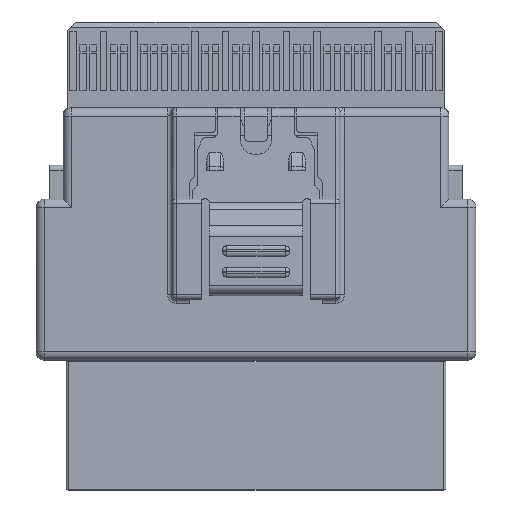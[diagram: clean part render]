
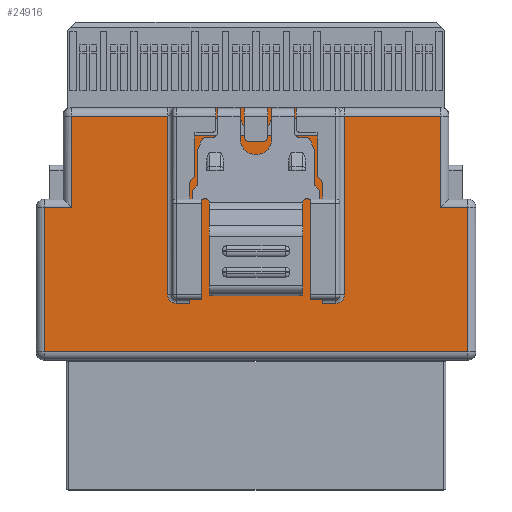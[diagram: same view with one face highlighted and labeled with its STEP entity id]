
A CAD part, top view. The second image highlights one B-rep face of the part: STEP entity #24916.
In plain terms, the highlighted planar face has unit normal (0, 0, 1) as drawn and (0, 1, 0) by its records, which use the part's own axes.
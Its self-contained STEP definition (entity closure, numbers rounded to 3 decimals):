
#20774=DIRECTION('',(0.,0.,-1.));
#20775=VECTOR('',#20774,1.6);
#20776=CARTESIAN_POINT('',(9.2,5.33,-10.875));
#20777=LINE('',#20776,#20775);
#20793=DIRECTION('',(0.,0.,1.));
#20794=VECTOR('',#20793,1.025);
#20795=CARTESIAN_POINT('',(14.35,5.33,-3.9));
#20796=LINE('',#20795,#20794);
#20797=CARTESIAN_POINT('',(14.85,5.33,-2.875));
#20798=DIRECTION('',(0.,1.,0.));
#20799=DIRECTION('',(-1.,0.,0.));
#20800=AXIS2_PLACEMENT_3D('',#20797,#20798,#20799);
#20802=DIRECTION('',(0.,0.,1.));
#20803=VECTOR('',#20802,1.675);
#20804=CARTESIAN_POINT('',(15.1,5.33,-2.375));
#20805=LINE('',#20804,#20803);
#20806=CARTESIAN_POINT('',(14.6,5.33,-0.2));
#20807=DIRECTION('',(0.,1.,0.));
#20808=DIRECTION('',(0.,0.,-1.));
#20809=AXIS2_PLACEMENT_3D('',#20806,#20807,#20808);
#20811=CARTESIAN_POINT('',(14.6,5.33,0.2));
#20812=DIRECTION('',(0.,1.,0.));
#20813=DIRECTION('',(-1.,0.,0.));
#20814=AXIS2_PLACEMENT_3D('',#20811,#20812,#20813);
#20816=DIRECTION('',(0.,0.,1.));
#20817=VECTOR('',#20816,1.675);
#20818=CARTESIAN_POINT('',(15.1,5.33,0.7));
#20819=LINE('',#20818,#20817);
#20820=CARTESIAN_POINT('',(14.85,5.33,2.875));
#20821=DIRECTION('',(0.,1.,0.));
#20822=DIRECTION('',(0.,0.,-1.));
#20823=AXIS2_PLACEMENT_3D('',#20820,#20821,#20822);
#20825=DIRECTION('',(0.,0.,1.));
#20826=VECTOR('',#20825,1.025);
#20827=CARTESIAN_POINT('',(14.35,5.33,2.875));
#20828=LINE('',#20827,#20826);
#20829=CARTESIAN_POINT('',(4.05,5.33,4.7));
#20830=DIRECTION('',(0.,1.,0.));
#20831=DIRECTION('',(-1.,0.,0.));
#20832=AXIS2_PLACEMENT_3D('',#20829,#20830,#20831);
#20834=CARTESIAN_POINT('',(4.05,5.33,-4.7));
#20835=DIRECTION('',(0.,1.,0.));
#20836=DIRECTION('',(0.,0.,-1.));
#20837=AXIS2_PLACEMENT_3D('',#20834,#20835,#20836);
#20847=DIRECTION('',(-1.,0.,0.));
#20848=VECTOR('',#20847,10.8);
#20849=CARTESIAN_POINT('',(14.35,5.33,-3.9));
#20850=LINE('',#20849,#20848);
#21083=DIRECTION('',(-1.,0.,0.));
#21084=VECTOR('',#21083,5.4);
#21085=CARTESIAN_POINT('',(14.6,5.33,-10.875));
#21086=LINE('',#21085,#21084);
#21102=DIRECTION('',(0.,0.,-1.));
#21103=VECTOR('',#21102,5.675);
#21104=CARTESIAN_POINT('',(14.6,5.33,
-5.2));
#21105=LINE('',#21104,#21103);
#21140=DIRECTION('',(1.,0.,0.));
#21141=VECTOR('',#21140,10.55);
#21142=CARTESIAN_POINT('',(4.05,5.33,-5.2));
#21143=LINE('',#21142,#21141);
#21267=DIRECTION('',(0.,0.,-1.));
#21268=VECTOR('',#21267,0.8);
#21269=CARTESIAN_POINT('',(3.55,5.33,-3.9));
#21270=LINE('',#21269,#21268);
#21537=DIRECTION('',(1.,0.,0.));
#21538=VECTOR('',#21537,8.5);
#21539=CARTESIAN_POINT('',(0.7,5.33,12.475));
#21540=LINE('',#21539,#21538);
#21565=DIRECTION('',(0.,0.,-1.));
#21566=VECTOR('',#21565,1.6);
#21567=CARTESIAN_POINT('',(9.2,5.33,12.475));
#21568=LINE('',#21567,#21566);
#21573=DIRECTION('',(1.,0.,0.));
#21574=VECTOR('',#21573,5.4);
#21575=CARTESIAN_POINT('',(9.2,5.33,10.875));
#21576=LINE('',#21575,#21574);
#21611=DIRECTION('',(0.,0.,-1.));
#21612=VECTOR('',#21611,5.675);
#21613=CARTESIAN_POINT('',(14.6,5.33,10.875));
#21614=LINE('',#21613,#21612);
#21697=DIRECTION('',(-1.,0.,0.));
#21698=VECTOR('',#21697,10.55);
#21699=CARTESIAN_POINT('',(14.6,5.33,5.2));
#21700=LINE('',#21699,#21698);
#21705=DIRECTION('',(0.,0.,-1.));
#21706=VECTOR('',#21705,0.8);
#21707=CARTESIAN_POINT('',(3.55,5.33,4.7));
#21708=LINE('',#21707,#21706);
#21742=DIRECTION('',(1.,0.,0.));
#21743=VECTOR('',#21742,10.8);
#21744=CARTESIAN_POINT('',(3.55,5.33,3.9));
#21745=LINE('',#21744,#21743);
#21762=DIRECTION('',(1.,0.,0.));
#21763=VECTOR('',#21762,0.25);
#21764=CARTESIAN_POINT('',(14.85,5.33,2.375));
#21765=LINE('',#21764,#21763);
#22002=DIRECTION('',(0.,0.,1.));
#22003=VECTOR('',#22002,24.95);
#22004=CARTESIAN_POINT('',(0.7,5.33,-12.475));
#22005=LINE('',#22004,#22003);
#22030=DIRECTION('',(-1.,0.,0.));
#22031=VECTOR('',#22030,8.5);
#22032=CARTESIAN_POINT('',(9.2,5.33,-12.475));
#22033=LINE('',#22032,#22031);
#22121=DIRECTION('',(-1.,0.,0.));
#22122=VECTOR('',#22121,0.5);
#22123=CARTESIAN_POINT('',(15.1,5.33,0.7));
#22124=LINE('',#22123,#22122);
#22189=DIRECTION('',(0.,0.,-1.));
#22190=VECTOR('',#22189,0.4);
#22191=CARTESIAN_POINT('',(14.1,5.33,0.2));
#22192=LINE('',#22191,#22190);
#22205=DIRECTION('',(1.,0.,0.));
#22206=VECTOR('',#22205,0.5);
#22207=CARTESIAN_POINT('',(14.6,5.33,-0.7));
#22208=LINE('',#22207,#22206);
#22255=DIRECTION('',(-1.,0.,0.));
#22256=VECTOR('',#22255,0.25);
#22257=CARTESIAN_POINT('',(15.1,5.33,-2.375));
#22258=LINE('',#22257,#22256);
#23719=CARTESIAN_POINT('',(9.2,5.33,-10.875));
#23720=CARTESIAN_POINT('',(9.2,5.33,-12.475));
#23721=VERTEX_POINT('',#23719);
#23722=VERTEX_POINT('',#23720);
#23723=CARTESIAN_POINT('',(14.35,5.33,-3.9));
#23724=CARTESIAN_POINT('',(3.55,5.33,-3.9));
#23725=VERTEX_POINT('',#23723);
#23726=VERTEX_POINT('',#23724);
#23727=CARTESIAN_POINT('',(14.35,5.33,-2.875));
#23728=VERTEX_POINT('',#23727);
#23729=CARTESIAN_POINT('',(14.85,5.33,-2.375));
#23730=VERTEX_POINT('',#23729);
#23731=CARTESIAN_POINT('',(15.1,5.33,-2.375));
#23732=VERTEX_POINT('',#23731);
#23733=CARTESIAN_POINT('',(15.1,5.33,-0.7));
#23734=VERTEX_POINT('',#23733);
#23735=CARTESIAN_POINT('',(14.6,5.33,-0.7));
#23736=VERTEX_POINT('',#23735);
#23737=CARTESIAN_POINT('',(14.1,5.33,-0.2));
#23738=VERTEX_POINT('',#23737);
#23739=CARTESIAN_POINT('',(14.1,5.33,0.2));
#23740=VERTEX_POINT('',#23739);
#23741=CARTESIAN_POINT('',(14.6,5.33,0.7));
#23742=VERTEX_POINT('',#23741);
#23743=CARTESIAN_POINT('',(15.1,5.33,0.7));
#23744=VERTEX_POINT('',#23743);
#23745=CARTESIAN_POINT('',(15.1,5.33,2.375));
#23746=VERTEX_POINT('',#23745);
#23747=CARTESIAN_POINT('',(14.85,5.33,2.375));
#23748=VERTEX_POINT('',#23747);
#23749=CARTESIAN_POINT('',(14.35,5.33,2.875));
#23750=VERTEX_POINT('',#23749);
#23751=CARTESIAN_POINT('',(14.35,5.33,3.9));
#23752=VERTEX_POINT('',#23751);
#23753=CARTESIAN_POINT('',(3.55,5.33,3.9));
#23754=VERTEX_POINT('',#23753);
#23755=CARTESIAN_POINT('',(3.55,5.33,4.7));
#23756=VERTEX_POINT('',#23755);
#23757=CARTESIAN_POINT('',(4.05,5.33,5.2));
#23758=VERTEX_POINT('',#23757);
#23759=CARTESIAN_POINT('',(14.6,5.33,5.2));
#23760=VERTEX_POINT('',#23759);
#23761=CARTESIAN_POINT('',(14.6,5.33,10.875));
#23762=VERTEX_POINT('',#23761);
#23763=CARTESIAN_POINT('',(9.2,5.33,10.875));
#23764=VERTEX_POINT('',#23763);
#23765=CARTESIAN_POINT('',(9.2,5.33,12.475));
#23766=VERTEX_POINT('',#23765);
#23767=CARTESIAN_POINT('',(0.7,5.33,12.475));
#23768=VERTEX_POINT('',#23767);
#23769=CARTESIAN_POINT('',(0.7,5.33,-12.475));
#23770=VERTEX_POINT('',#23769);
#23771=CARTESIAN_POINT('',(14.6,5.33,-10.875));
#23772=VERTEX_POINT('',#23771);
#23773=CARTESIAN_POINT('',(14.6,5.33,
-5.2));
#23774=VERTEX_POINT('',#23773);
#23775=CARTESIAN_POINT('',(4.05,5.33,-5.2));
#23776=VERTEX_POINT('',#23775);
#23777=CARTESIAN_POINT('',(3.55,5.33,-4.7));
#23778=VERTEX_POINT('',#23777);
#24850=CARTESIAN_POINT('',(0.,5.33,-12.65));
#24851=DIRECTION('',(0.,1.,0.));
#24852=DIRECTION('',(1.,0.,0.));
#24853=AXIS2_PLACEMENT_3D('',#24850,#24851,#24852);
#24854=PLANE('',#24853);
#24856=ORIENTED_EDGE('',*,*,#24855,.F.);
#24858=ORIENTED_EDGE('',*,*,#24857,.T.);
#24860=ORIENTED_EDGE('',*,*,#24859,.T.);
#24862=ORIENTED_EDGE('',*,*,#24861,.F.);
#24864=ORIENTED_EDGE('',*,*,#24863,.T.);
#24866=ORIENTED_EDGE('',*,*,#24865,.F.);
#24868=ORIENTED_EDGE('',*,*,#24867,.T.);
#24870=ORIENTED_EDGE('',*,*,#24869,.F.);
#24872=ORIENTED_EDGE('',*,*,#24871,.T.);
#24874=ORIENTED_EDGE('',*,*,#24873,.F.);
#24876=ORIENTED_EDGE('',*,*,#24875,.T.);
#24878=ORIENTED_EDGE('',*,*,#24877,.F.);
#24880=ORIENTED_EDGE('',*,*,#24879,.T.);
#24882=ORIENTED_EDGE('',*,*,#24881,.T.);
#24884=ORIENTED_EDGE('',*,*,#24883,.F.);
#24886=ORIENTED_EDGE('',*,*,#24885,.F.);
#24888=ORIENTED_EDGE('',*,*,#24887,.T.);
#24890=ORIENTED_EDGE('',*,*,#24889,.F.);
#24892=ORIENTED_EDGE('',*,*,#24891,.F.);
#24894=ORIENTED_EDGE('',*,*,#24893,.F.);
#24896=ORIENTED_EDGE('',*,*,#24895,.F.);
#24898=ORIENTED_EDGE('',*,*,#24897,.F.);
#24900=ORIENTED_EDGE('',*,*,#24899,.F.);
#24902=ORIENTED_EDGE('',*,*,#24901,.F.);
#24903=ORIENTED_EDGE('',*,*,#24840,.F.);
#24905=ORIENTED_EDGE('',*,*,#24904,.F.);
#24907=ORIENTED_EDGE('',*,*,#24906,.F.);
#24909=ORIENTED_EDGE('',*,*,#24908,.F.);
#24911=ORIENTED_EDGE('',*,*,#24910,.T.);
#24913=ORIENTED_EDGE('',*,*,#24912,.F.);
#24914=EDGE_LOOP('',(#24856,#24858,#24860,#24862,#24864,#24866,#24868,#24870,
#24872,#24874,#24876,#24878,#24880,#24882,#24884,#24886,#24888,#24890,#24892,
#24894,#24896,#24898,#24900,#24902,#24903,#24905,#24907,#24909,#24911,#24913));
#24915=FACE_OUTER_BOUND('',#24914,.F.);
#24916=ADVANCED_FACE('',(#24915),#24854,.T.);
#20801=CIRCLE('',#20800,0.5);
#20810=CIRCLE('',#20809,0.5);
#20815=CIRCLE('',#20814,0.5);
#20824=CIRCLE('',#20823,0.5);
#20833=CIRCLE('',#20832,0.5);
#20838=CIRCLE('',#20837,0.5);
#24840=EDGE_CURVE('',#23721,#23722,#20777,.T.);
#24855=EDGE_CURVE('',#23725,#23726,#20850,.T.);
#24857=EDGE_CURVE('',#23725,#23728,#20796,.T.);
#24859=EDGE_CURVE('',#23728,#23730,#20801,.T.);
#24861=EDGE_CURVE('',#23732,#23730,#22258,.T.);
#24863=EDGE_CURVE('',#23732,#23734,#20805,.T.);
#24865=EDGE_CURVE('',#23736,#23734,#22208,.T.);
#24867=EDGE_CURVE('',#23736,#23738,#20810,.T.);
#24869=EDGE_CURVE('',#23740,#23738,#22192,.T.);
#24871=EDGE_CURVE('',#23740,#23742,#20815,.T.);
#24873=EDGE_CURVE('',#23744,#23742,#22124,.T.);
#24875=EDGE_CURVE('',#23744,#23746,#20819,.T.);
#24877=EDGE_CURVE('',#23748,#23746,#21765,.T.);
#24879=EDGE_CURVE('',#23748,#23750,#20824,.T.);
#24881=EDGE_CURVE('',#23750,#23752,#20828,.T.);
#24883=EDGE_CURVE('',#23754,#23752,#21745,.T.);
#24885=EDGE_CURVE('',#23756,#23754,#21708,.T.);
#24887=EDGE_CURVE('',#23756,#23758,#20833,.T.);
#24889=EDGE_CURVE('',#23760,#23758,#21700,.T.);
#24891=EDGE_CURVE('',#23762,#23760,#21614,.T.);
#24893=EDGE_CURVE('',#23764,#23762,#21576,.T.);
#24895=EDGE_CURVE('',#23766,#23764,#21568,.T.);
#24897=EDGE_CURVE('',#23768,#23766,#21540,.T.);
#24899=EDGE_CURVE('',#23770,#23768,#22005,.T.);
#24901=EDGE_CURVE('',#23722,#23770,#22033,.T.);
#24904=EDGE_CURVE('',#23772,#23721,#21086,.T.);
#24906=EDGE_CURVE('',#23774,#23772,#21105,.T.);
#24908=EDGE_CURVE('',#23776,#23774,#21143,.T.);
#24910=EDGE_CURVE('',#23776,#23778,#20838,.T.);
#24912=EDGE_CURVE('',#23726,#23778,#21270,.T.);
